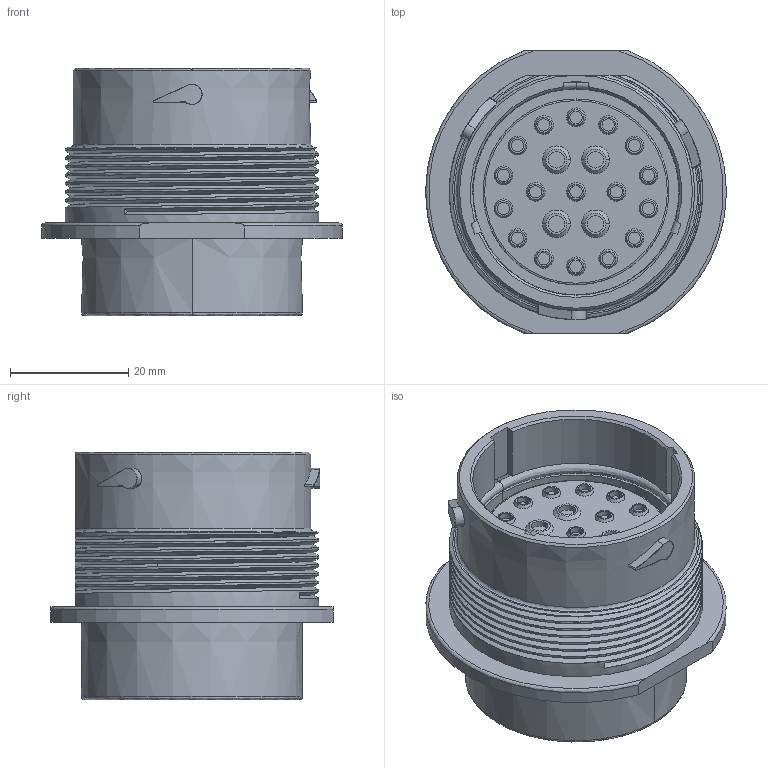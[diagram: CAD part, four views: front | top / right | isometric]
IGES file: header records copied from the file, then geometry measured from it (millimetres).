
Start section:  PTC IGES file: c-hdp24-24-21pe-99-3d.igs
Global section: file name: c-hdp24-24-21pe-99-3d.igs; native system: Pro/ENGINEER by Parametric Technology Corporation; preprocessor: 2011490; author: workeradm; organization: Unknown; units: millimetre
Bounding box: 50.8 x 47.62 x 41.86 mm (x, y, z)
Surface area: 13232.8 mm2 (no closed solid volume)
Topology: 0 solids, 0 shells, 417 faces, 1800 edges, 1800 vertices
Faces by surface type: revolution 266, bspline 151
